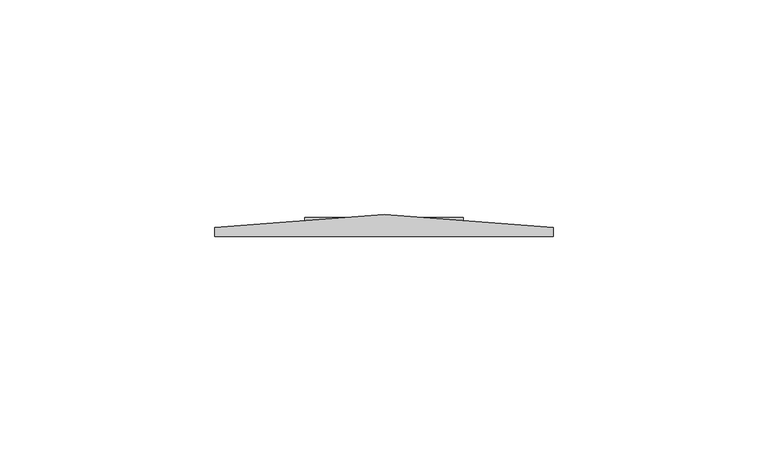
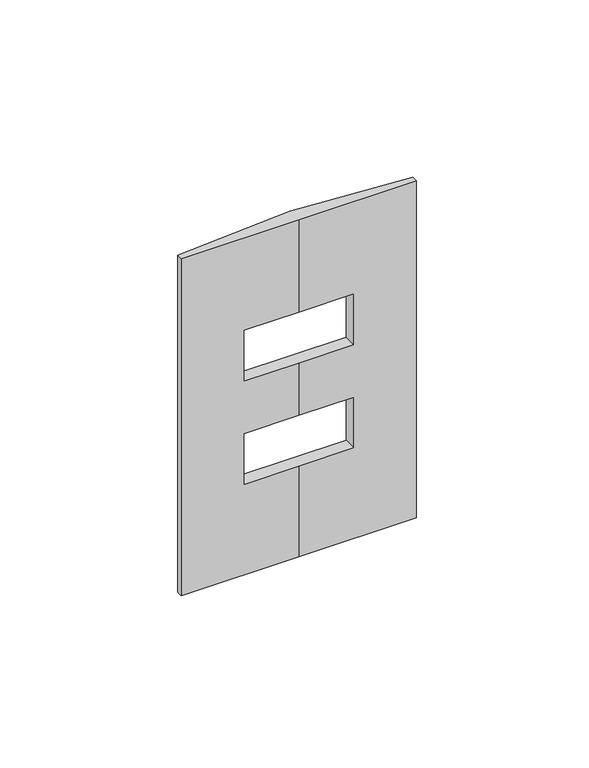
"""IFC4 building model written with IfcOpenShell, lengths in millimetres: proxy geometry, 1.b_2 Tomadas 2P+T_Conjunto 4x2 : a. 2 Tomadas 2P+T 10A."""

from ifc_helpers import new_model, si_unit, frame, origin, place, context, project, spatial, circle_curve, source, transform, mapped, element, save
from ifc_brep_helpers import plane_surface, cylinder_surface, advanced_brep


def electrical_fixtures_bbed43ca(model_context):
    return source(origin(), model_context, "Body", "AdvancedBrep", [
        advanced_brep(
        [(39.4526285, 2.0401128, 360.0), (-39.4526285, 2.0401128, 360.0), (-39.4526285, 0.0, 360.0), (0.0, 0.0, 360.0), (39.4526285, 0.0, 360.0), (39.4526285, 2.0401128, 240.5938499), (39.4526285, 0.0, 240.5938499), (0.0, 0.0, 240.5938499), (-39.4526285, 0.0, 240.5938499), (-39.4526285, 2.0401128, 240.5938499), (0.0, 0.0, 272.7030751), (-18.5, 0.0, 272.7030751), (-18.5, 0.0, 290.7030751), (0.0, 0.0, 290.7030751), (0.0, 0.0, 309.2969249), (-18.5, 0.0, 309.2969249), (-18.5, 0.0, 327.2969249), (0.0, 0.0, 327.2969249), (18.5, 0.0, 327.2969249), (18.5, 0.0, 309.2969249), (18.5, 0.0, 290.7030751), (18.5, 0.0, 272.7030751), (18.5, 4.4574672, 327.2969249), (-18.5, 4.4574672, 327.2969249), (-18.5, 4.4574672, 309.2969249), (18.5, 4.4574672, 309.2969249), (-18.5, 4.4574672, 272.7030751), (18.5, 4.4574672, 272.7030751), (18.5, 4.4574672, 290.7030751), (-18.5, 4.4574672, 290.7030751)],
        [
            (0, 1, circle_curve(frame((0.0, -247.9059239, 360.0), z_axis=(0.0, 0.0, 1.0), x_axis=(-1.0, 0.0, 0.0)), 253.0405721)),
            (1, 2),
            (2, 3),
            (3, 4),
            (4, 0),
            (5, 6),
            (6, 7),
            (7, 8),
            (8, 9),
            (9, 5, circle_curve(frame((0.0, -247.9059239, 240.5938499), z_axis=(0.0, 0.0, -1.0), x_axis=(-1.0, 0.0, 0.0)), 253.0405721)),
            (1, 9),
            (8, 2),
            (7, 10),
            (10, 11),
            (11, 12),
            (12, 13),
            (13, 14),
            (14, 15),
            (15, 16),
            (16, 17),
            (17, 3),
            (17, 18),
            (18, 19),
            (19, 14),
            (13, 20),
            (20, 21),
            (21, 10),
            (6, 4),
            (5, 0),
            (22, 23, circle_curve(frame((0.0, -247.9059239, 327.2969249), z_axis=(0.0, 0.0, 1.0), x_axis=(-1.0, 0.0, 0.0)), 253.0405721)),
            (23, 24),
            (24, 25, circle_curve(frame((0.0, -247.9059239, 309.2969249), z_axis=(0.0, 0.0, -1.0), x_axis=(-1.0, 0.0, 0.0)), 253.0405721)),
            (25, 22),
            (26, 27, circle_curve(frame((0.0, -247.9059239, 272.7030751), z_axis=(0.0, 0.0, -1.0), x_axis=(-1.0, 0.0, 0.0)), 253.0405721)),
            (27, 28),
            (28, 29, circle_curve(frame((0.0, -247.9059239, 290.7030751), z_axis=(0.0, 0.0, 1.0), x_axis=(-1.0, 0.0, 0.0)), 253.0405721)),
            (29, 26),
            (16, 23),
            (22, 18),
            (25, 19),
            (24, 15),
            (21, 27),
            (26, 11),
            (20, 28),
            (12, 29),
        ],
        [
            plane_surface(frame((-253.0405721, -247.9059239, 360.0), z_axis=(0.0, 0.0, 1.0), x_axis=(0.0, -1.0, 0.0))),
            plane_surface(frame((-253.0405721, -247.9059239, 240.5938499), z_axis=(0.0, 0.0, -1.0), x_axis=(0.0, 1.0, 0.0))),
            plane_surface(frame((-39.4526285, 2.0401128, 360.0), z_axis=(-1.0, 0.0, 0.0), x_axis=(0.0, 0.0, -1.0))),
            plane_surface(frame((-39.4526285, 0.0, 360.0), z_axis=(0.0, -1.0, 0.0), x_axis=(0.0, 0.0, -1.0))),
            plane_surface(frame((0.0, 0.0, 360.0), z_axis=(0.0, -1.0, 0.0), x_axis=(0.0, 0.0, -1.0))),
            plane_surface(frame((39.4526285, 0.0, 360.0), z_axis=(1.0, 0.0, 0.0), x_axis=(0.0, 0.0, -1.0))),
            cylinder_surface(frame((0.0, -247.9059239, 240.5938499), z_axis=(0.0, 0.0, 1.0), x_axis=(-1.0, 0.0, 0.0)), 253.0405721),
            plane_surface(frame((-18.5, 7.7569542, 327.2969249), z_axis=(0.0, 0.0, -1.0), x_axis=(0.0, -1.0, 0.0))),
            plane_surface(frame((18.5, 7.7569542, 327.2969249), z_axis=(-1.0, 0.0, 0.0), x_axis=(0.0, -1.0, 0.0))),
            plane_surface(frame((18.5, 7.7569542, 309.2969249), z_axis=(0.0, 0.0, 1.0), x_axis=(0.0, -1.0, 0.0))),
            plane_surface(frame((-18.5, 7.7569542, 309.2969249), z_axis=(1.0, 0.0, 0.0), x_axis=(0.0, -1.0, 0.0))),
            plane_surface(frame((18.5, 7.7569542, 272.7030751), z_axis=(0.0, 0.0, 1.0), x_axis=(0.0, -1.0, 0.0))),
            plane_surface(frame((18.5, 7.7569542, 290.7030751), z_axis=(-1.0, 0.0, 0.0), x_axis=(0.0, -1.0, 0.0))),
            plane_surface(frame((-18.5, 7.7569542, 290.7030751), z_axis=(0.0, 0.0, -1.0), x_axis=(0.0, -1.0, 0.0))),
            plane_surface(frame((-18.5, 7.7569542, 272.7030751), z_axis=(1.0, 0.0, 0.0), x_axis=(0.0, -1.0, 0.0))),
        ],
        [
            (0, [[1, 2, 3, 4, 5]]),
            (1, [[6, 7, 8, 9, 10]]),
            (2, [[-2, 11, -9, 12]]),
            (3, [[-3, -12, -8, 13, 14, 15, 16, 17, 18, 19, 20, 21]]),
            (4, [[-4, -21, 22, 23, 24, -17, 25, 26, 27, -13, -7, 28]]),
            (5, [[-5, -28, -6, 29]]),
            (6, [[-1, -29, -10, -11], [30, 31, 32, 33], [34, 35, 36, 37]]),
            (7, [[38, -30, 39, -22, -20]]),
            (8, [[-39, -33, 40, -23]]),
            (9, [[-40, -32, 41, -18, -24]]),
            (10, [[-38, -19, -41, -31]]),
            (11, [[42, -34, 43, -14, -27]]),
            (12, [[-42, -26, 44, -35]]),
            (13, [[-44, -25, -16, 45, -36]]),
            (14, [[-45, -15, -43, -37]]),
        ],
    ),
    ])


if __name__ == "__main__":
    model = new_model("IFC4")
    model_context = context("Model", 3, world=origin())
    ifc_project = project(units=[si_unit("LENGTHUNIT", "METRE", prefix="MILLI")], contexts=[model_context])
    site = spatial("IfcSite", under=ifc_project)
    building = spatial("IfcBuilding", under=site)
    placement = place(None, origin())
    electrical_fixtures_shape = electrical_fixtures_bbed43ca(model_context)
    element("IfcBuildingElementProxy", 1, Name="1.b_2 Tomadas 2P+T_Conjunto 4x2 : a. 2 Tomadas 2P+T 10A", ObjectType="1.b_2 Tomadas 2P+T_Conjunto 4x2 : a. 2 Tomadas 2P+T 10A", at=placement, inside=building, context=model_context, shape_type="MappedRepresentation", body=[
        mapped(electrical_fixtures_shape, transform((0.0, 0.0, 0.0), x_axis=(1.0, 0.0, 0.0), y_axis=(0.0, 1.0, 0.0), z_axis=(0.0, 0.0, 1.0))),
    ])
    save(model, "model.ifc")
